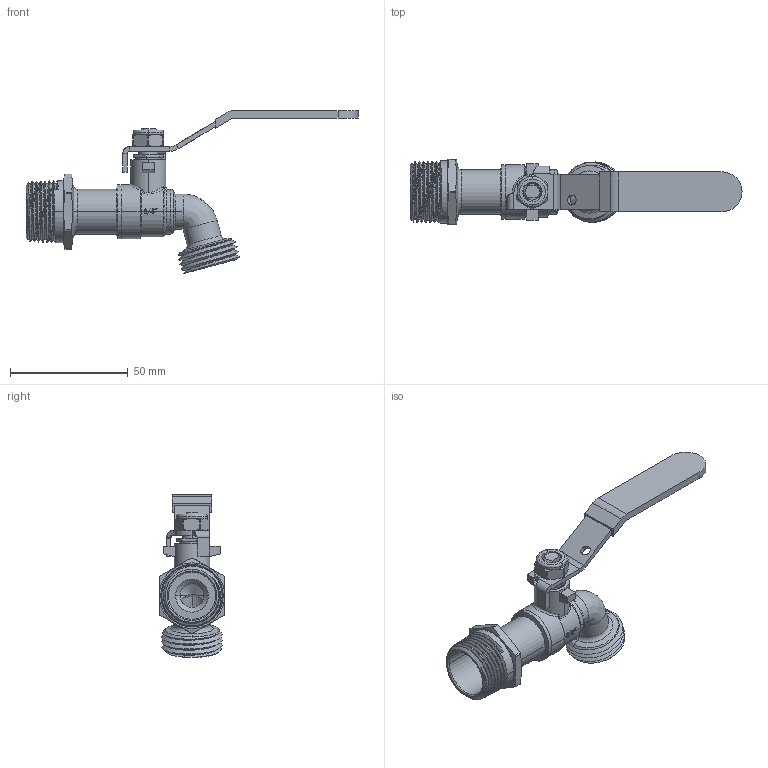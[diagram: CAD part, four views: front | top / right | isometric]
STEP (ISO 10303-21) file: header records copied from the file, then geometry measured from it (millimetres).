
FILE_DESCRIPTION(('Open CASCADE Model'),'2;1');
FILE_NAME('Open CASCADE Shape Model','2021-12-17T11:33:21',('Author'),( 'Open CASCADE'),'Open CASCADE STEP processor 7.3','Open CASCADE 7.3' ,'Unknown');
FILE_SCHEMA(('AUTOMOTIVE_DESIGN { 1 0 10303 214 1 1 1 1 }'));
Length unit declared in the file: millimetre
Products named in the file (14): Open CASCADE STEP translator 7.3 1; Open CASCADE STEP translator 7.3 1.1; Open CASCADE STEP translator 7.3 1.2; Open CASCADE STEP translator 7.3 1.3; Open CASCADE STEP translator 7.3 1.4; Open CASCADE STEP translator 7.3 1.5; Open CASCADE STEP translator 7.3 1.6; Open CASCADE STEP translator 7.3 1.7; Open CASCADE STEP translator 7.3 1.8; Open CASCADE STEP translator 7.3 1.9; Open CASCADE STEP translator 7.3 1.10; Open CASCADE STEP translator 7.3 1.11; Open CASCADE STEP translator 7.3 1.12; Open CASCADE STEP translator 7.3 1.13
Assembly tree (13 placements, depth 2):
  Open CASCADE STEP translator 7.3 1
    Open CASCADE STEP translator 7.3 1.1
    Open CASCADE STEP translator 7.3 1.2
    Open CASCADE STEP translator 7.3 1.3
    Open CASCADE STEP translator 7.3 1.4
    Open CASCADE STEP translator 7.3 1.5
    Open CASCADE STEP translator 7.3 1.6
    Open CASCADE STEP translator 7.3 1.7
    Open CASCADE STEP translator 7.3 1.8
    Open CASCADE STEP translator 7.3 1.9
    Open CASCADE STEP translator 7.3 1.10
    Open CASCADE STEP translator 7.3 1.11
    Open CASCADE STEP translator 7.3 1.12
    Open CASCADE STEP translator 7.3 1.13
Bounding box: 141.1 x 28 x 69.24 mm (x, y, z)
Volume: 25386.7 mm3; surface area: 24776 mm2
Topology: 13 solids, 13 shells, 545 faces, 1388 edges, 880 vertices
Faces by surface type: cylinder 180, plane 137, cone 104, bspline 92, torus 27, sphere 4, revolution 1
Entity records: 87710 total; most frequent: CARTESIAN_POINT 62738, DIRECTION 3789, ORIENTED_EDGE 2768, PCURVE 2768, DEFINITIONAL_REPRESENTATION 2768, LINE 1939, VECTOR 1939, B_SPLINE_CURVE_WITH_KNOTS 1440
